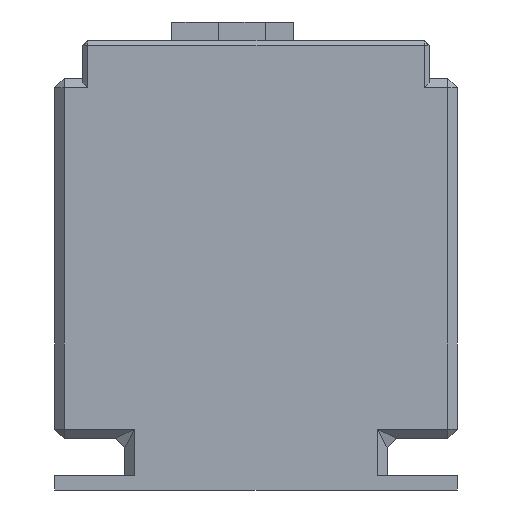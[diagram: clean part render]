
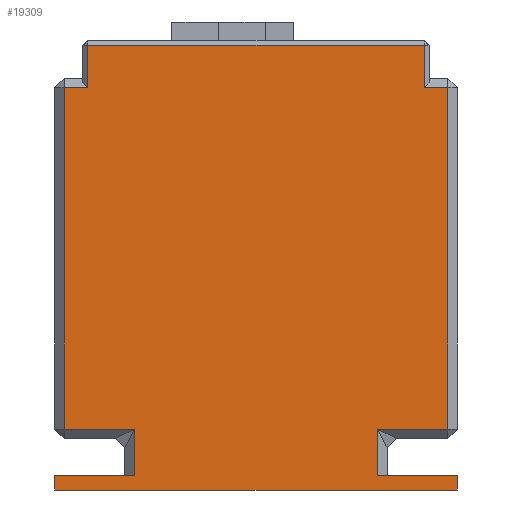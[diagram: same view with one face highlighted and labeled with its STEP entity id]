
A CAD part, left-side view. The second image highlights one B-rep face of the part: STEP entity #19309.
In plain terms, the highlighted planar face has unit normal (-1, 0, 0).
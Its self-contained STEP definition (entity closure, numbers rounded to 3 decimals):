
#2013=FACE_OUTER_BOUND('',#3157,.T.);
#3157=EDGE_LOOP('',(#15843,#15844,#15845,#15846,#15847,#15848,#15849,#15850,
#15851,#15852,#15853,#15854,#15855,#15856,#15857,#15858));
#4888=LINE('',#32395,#6816);
#4890=LINE('',#32398,#6818);
#4894=LINE('',#32408,#6822);
#4924=LINE('',#32471,#6852);
#4926=LINE('',#32474,#6854);
#4932=LINE('',#32483,#6860);
#4941=LINE('',#32499,#6869);
#4976=LINE('',#32572,#6904);
#4979=LINE('',#32577,#6907);
#4983=LINE('',#32583,#6911);
#4987=LINE('',#32591,#6915);
#4991=LINE('',#32599,#6919);
#4992=LINE('',#32601,#6920);
#4993=LINE('',#32603,#6921);
#4994=LINE('',#32605,#6922);
#4995=LINE('',#32606,#6923);
#6816=VECTOR('',#23065,10.);
#6818=VECTOR('',#23069,10.);
#6822=VECTOR('',#23079,10.);
#6852=VECTOR('',#23131,10.);
#6854=VECTOR('',#23135,10.);
#6860=VECTOR('',#23147,10.);
#6869=VECTOR('',#23162,10.);
#6904=VECTOR('',#23227,10.);
#6907=VECTOR('',#23234,10.);
#6911=VECTOR('',#23240,10.);
#6915=VECTOR('',#23248,10.);
#6919=VECTOR('',#23256,10.);
#6920=VECTOR('',#23257,10.);
#6921=VECTOR('',#23258,10.);
#6922=VECTOR('',#23259,10.);
#6923=VECTOR('',#23260,10.);
#8648=VERTEX_POINT('',#32379);
#8650=VERTEX_POINT('',#32388);
#8652=VERTEX_POINT('',#32393);
#8654=VERTEX_POINT('',#32404);
#8661=VERTEX_POINT('',#32421);
#8667=VERTEX_POINT('',#32435);
#8672=VERTEX_POINT('',#32447);
#8680=VERTEX_POINT('',#32495);
#8696=VERTEX_POINT('',#32547);
#8700=VERTEX_POINT('',#32555);
#8702=VERTEX_POINT('',#32564);
#8707=VERTEX_POINT('',#32589);
#8709=VERTEX_POINT('',#32598);
#8710=VERTEX_POINT('',#32600);
#8711=VERTEX_POINT('',#32602);
#8712=VERTEX_POINT('',#32604);
#11103=EDGE_CURVE('',#8652,#8650,#4888,.T.);
#11105=EDGE_CURVE('',#8650,#8648,#4890,.T.);
#11110=EDGE_CURVE('',#8648,#8654,#4894,.T.);
#11140=EDGE_CURVE('',#8654,#8672,#4924,.T.);
#11142=EDGE_CURVE('',#8672,#8667,#4926,.T.);
#11148=EDGE_CURVE('',#8667,#8661,#4932,.T.);
#11157=EDGE_CURVE('',#8661,#8680,#4941,.T.);
#11192=EDGE_CURVE('',#8702,#8700,#4976,.T.);
#11195=EDGE_CURVE('',#8696,#8702,#4979,.T.);
#11199=EDGE_CURVE('',#8700,#8652,#4983,.T.);
#11203=EDGE_CURVE('',#8707,#8696,#4987,.T.);
#11207=EDGE_CURVE('',#8707,#8709,#4991,.T.);
#11208=EDGE_CURVE('',#8710,#8709,#4992,.T.);
#11209=EDGE_CURVE('',#8710,#8711,#4993,.T.);
#11210=EDGE_CURVE('',#8711,#8712,#4994,.T.);
#11211=EDGE_CURVE('',#8712,#8680,#4995,.T.);
#15843=ORIENTED_EDGE('',*,*,#11199,.F.);
#15844=ORIENTED_EDGE('',*,*,#11192,.F.);
#15845=ORIENTED_EDGE('',*,*,#11195,.F.);
#15846=ORIENTED_EDGE('',*,*,#11203,.F.);
#15847=ORIENTED_EDGE('',*,*,#11207,.T.);
#15848=ORIENTED_EDGE('',*,*,#11208,.F.);
#15849=ORIENTED_EDGE('',*,*,#11209,.T.);
#15850=ORIENTED_EDGE('',*,*,#11210,.T.);
#15851=ORIENTED_EDGE('',*,*,#11211,.T.);
#15852=ORIENTED_EDGE('',*,*,#11157,.F.);
#15853=ORIENTED_EDGE('',*,*,#11148,.F.);
#15854=ORIENTED_EDGE('',*,*,#11142,.F.);
#15855=ORIENTED_EDGE('',*,*,#11140,.F.);
#15856=ORIENTED_EDGE('',*,*,#11110,.F.);
#15857=ORIENTED_EDGE('',*,*,#11105,.F.);
#15858=ORIENTED_EDGE('',*,*,#11103,.F.);
#18222=PLANE('',#20222);
#19309=ADVANCED_FACE('',(#2013),#18222,.T.);
#20222=AXIS2_PLACEMENT_3D('',#32597,#23254,#23255);
#23065=DIRECTION('',(0.,0.,1.));
#23069=DIRECTION('',(0.,-1.,0.));
#23079=DIRECTION('',(0.,0.,-1.));
#23131=DIRECTION('',(0.,-1.,0.));
#23135=DIRECTION('',(0.,0.,-1.));
#23147=DIRECTION('',(0.,1.,0.));
#23162=DIRECTION('',(0.,0.,-1.));
#23227=DIRECTION('',(0.,0.,1.));
#23234=DIRECTION('',(0.,1.,0.));
#23240=DIRECTION('',(0.,-1.,0.));
#23248=DIRECTION('',(0.,0.,1.));
#23254=DIRECTION('center_axis',(-1.,0.,0.));
#23255=DIRECTION('ref_axis',(0.,-1.,0.));
#23256=DIRECTION('',(0.,1.,0.));
#23257=DIRECTION('',(0.,0.,1.));
#23258=DIRECTION('',(0.,-1.,0.));
#23259=DIRECTION('',(0.,0.,1.));
#23260=DIRECTION('',(0.,1.,0.));
#32379=CARTESIAN_POINT('',(0.,7.,95.));
#32388=CARTESIAN_POINT('',(0.,79.,95.));
#32393=CARTESIAN_POINT('',(0.,79.,86.));
#32395=CARTESIAN_POINT('',(0.,79.,50.));
#32398=CARTESIAN_POINT('',(0.,64.5,95.));
#32404=CARTESIAN_POINT('',(0.,7.,86.));
#32408=CARTESIAN_POINT('',(0.,7.,50.));
#32421=CARTESIAN_POINT('',(0.,17.,13.));
#32435=CARTESIAN_POINT('',(0.,2.,13.));
#32447=CARTESIAN_POINT('',(0.,2.,86.));
#32471=CARTESIAN_POINT('',(0.,44.756,86.));
#32474=CARTESIAN_POINT('',(0.,2.,0.));
#32483=CARTESIAN_POINT('',(0.,43.,13.));
#32495=CARTESIAN_POINT('',(0.,17.,3.));
#32499=CARTESIAN_POINT('',(0.,17.,3.5));
#32547=CARTESIAN_POINT('',(0.,69.,13.));
#32555=CARTESIAN_POINT('',(0.,84.,86.));
#32564=CARTESIAN_POINT('',(0.,84.,13.));
#32572=CARTESIAN_POINT('',(0.,84.,0.));
#32577=CARTESIAN_POINT('',(0.,86.,13.));
#32583=CARTESIAN_POINT('',(0.,84.244,86.));
#32589=CARTESIAN_POINT('',(0.,69.,3.));
#32591=CARTESIAN_POINT('',(0.,69.,3.5));
#32597=CARTESIAN_POINT('Origin',(0.,86.,0.));
#32598=CARTESIAN_POINT('',(0.,86.,3.));
#32599=CARTESIAN_POINT('',(0.,86.,3.));
#32600=CARTESIAN_POINT('',(0.,86.,0.));
#32601=CARTESIAN_POINT('',(0.,86.,0.));
#32602=CARTESIAN_POINT('',(0.,0.,0.));
#32603=CARTESIAN_POINT('',(0.,86.,0.));
#32604=CARTESIAN_POINT('',(0.,0.,3.));
#32605=CARTESIAN_POINT('',(0.,0.,0.));
#32606=CARTESIAN_POINT('',(0.,43.,3.));
